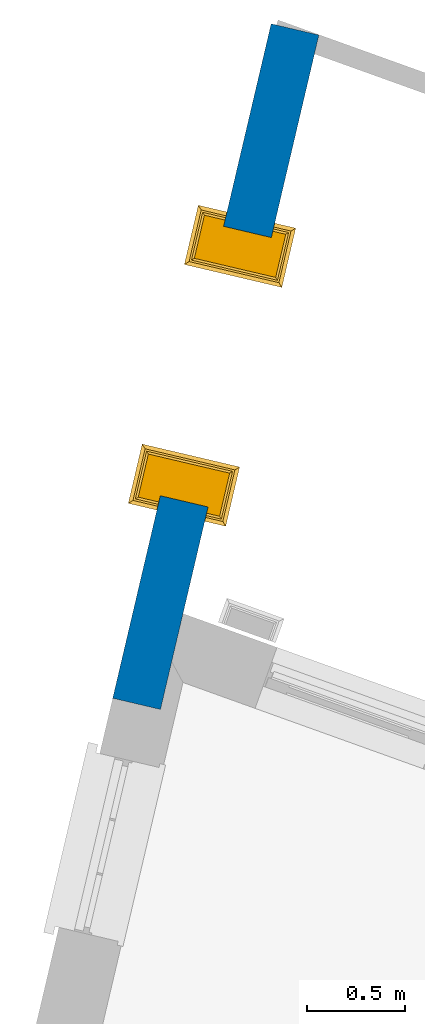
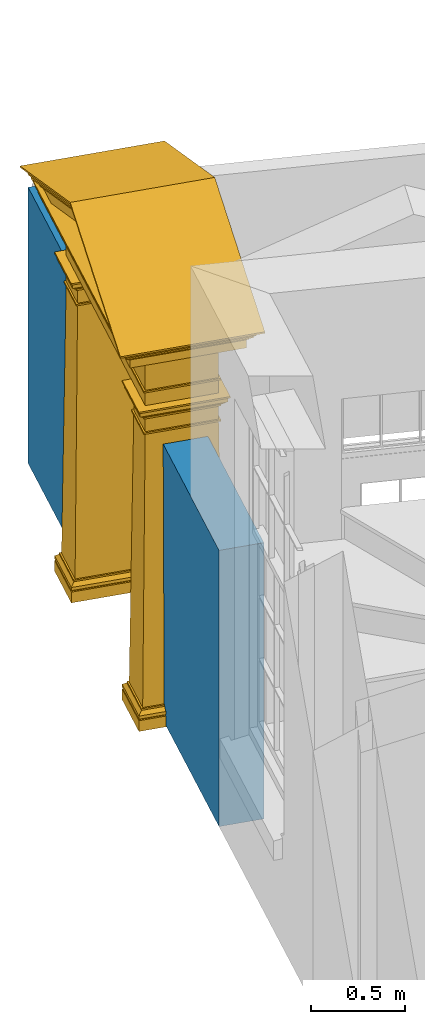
# One storey, part 5 of 6: 1 door, 1 wall, 1 opening.
"""IFC4 building model written with IfcOpenShell, lengths in metres."""

from ifc_helpers import new_model, si_unit, frame, origin, origin_with_axes, place, context, subcontext, project, spatial, polyline, outline, extrude, faceted_brep, source, transform, mapped, material, layer, layer_set, layer_usage, type_object, type_shapes, element, fill, save


model = new_model("IFC4")

# Units and contexts
model_context = context("Model", 3, world=origin_with_axes())
body_context = subcontext(model_context, "Body", "Model", "MODEL_VIEW")
ifc_project = project(units=[si_unit("PLANEANGLEUNIT", "RADIAN"), si_unit("MASSUNIT", "GRAM", prefix="KILO"), si_unit("FORCEUNIT", "NEWTON", prefix="KILO"), si_unit("LENGTHUNIT", "METRE"), si_unit("AREAUNIT", "SQUARE_METRE"), si_unit("VOLUMEUNIT", "CUBIC_METRE")], contexts=[model_context, model_context])

# Sites, building, storey
site_1_placement = place(None, origin_with_axes())
site_1 = spatial("IfcSite", under=ifc_project, at=site_1_placement, Name="Tamar")
site_2_placement = place(site_1_placement, origin_with_axes())
site_2 = spatial("IfcSite", under=site_1, at=site_2_placement, Name="Site plot-22", CompositionType="ELEMENT")
building_placement = place(None, origin_with_axes())
building = spatial("IfcBuilding", under=site_2, at=building_placement, Name="Building plot-22", CompositionType="ELEMENT")
storey_placement = place(None, frame((0.0, 0.0, 24.5), z_axis=(0.0, 0.0, 1.0), x_axis=(1.0, 0.0, 0.0)))
storey = spatial("IfcBuildingStorey", under=building, at=storey_placement, Name="plot-22 0", CompositionType="ELEMENT", Elevation=24.5)

# Wall, opening, door
ifc_material = material(Name="Masonry")
ifc_layer = layer(ifc_material, 0.25, ventilated=False)
ifc_layer_set = layer_set([ifc_layer], Name="fence_0_0.25")
ifc_layer_usage = layer_usage(ifc_layer_set, "AXIS2", "POSITIVE", -0.25)
wall_type = type_object("IfcWallType", Name="fence_0_0.25", PredefinedType="SOLIDWALL", material=ifc_layer_set)
wall_placement = place(storey_placement, frame((251.765184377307, 279.180139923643, 0.0), z_axis=(0.0, 0.0, 1.0), x_axis=(-0.228654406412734, -0.973507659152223, 0.0)))
wall = element("IfcWall", 1, at=wall_placement, inside=storey, type_object=wall_type, material=ifc_layer_usage, Name="fence", context=body_context, shape_type="SweptSolid", body=[
    extrude(outline(polyline([(-0.249999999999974, 1.30165145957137e-15), (-0.249999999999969, -0.25), (3.28010358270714, -0.250000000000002), (3.28010358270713, 0.0), (-0.249999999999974, 1.30165145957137e-15)])), origin_with_axes(), (0.0, 0.0, 1.0), 1.8),
])
opening_placement = place(wall_placement, frame((0.810051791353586, 0.0, -0.0100000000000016)))
opening = element("IfcOpeningElement", 2, at=opening_placement, cuts=wall, Name="My Opening", ObjectType="Opening", context=body_context, shape_type="SweptSolid", body=[
    extrude(outline(polyline([(0.0, -0.270000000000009), (1.40999999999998, -0.270000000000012), (1.40999999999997, 1.02000000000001), (-3.10862446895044e-15, 1.02000000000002), (0.0, -0.270000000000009)])), origin_with_axes(), (0.0, 0.0, 1.0), 1.81),
])
door_type = type_object("IfcDoorType", Name="gate", OperationType="SINGLE_SWING_LEFT", PredefinedType="NOTDEFINED")
shared_shape = source(origin(), body_context, "Body", "Brep", [
    faceted_brep([(1.565, 0.25, 2.5), (1.565, -0.21, 2.5), (1.565, -0.21, 2.49), (1.565, 0.25, 2.49), (1.445, -0.09, 2.01), (1.215, -0.09, 2.01), (1.215, -0.09, 2.0), (1.445, -0.09, 2.0), (-0.035, -0.09, 2.180001), (-0.025, -0.08, 2.180001), (-0.025, 0.25, 2.180001), (-0.035, 0.25, 2.180001), (-0.025, -0.08, 2.170001), (-0.035, -0.09, 2.170001), (-0.035, 0.25, 2.170001), (-0.025, 0.25, 2.170001), (1.445, -0.09, 2.180001), (1.435, -0.08, 2.180001), (-0.025, -0.08, 2.37), (-0.025, 0.25, 2.37), (1.435, -0.08, 2.170001), (1.445, -0.09, 2.170001), (-0.025, -0.08, 2.08), (-0.025, 0.25, 2.08), (1.445, 0.25, 2.180001), (1.435, 0.25, 2.180001), (1.435, -0.08, 2.37), (-0.035, -0.09, 2.37), (-0.035, 0.25, 2.37), (1.435, 0.25, 2.37), (1.445, 0.25, 2.170001), (1.435, 0.25, 2.170001), (0.235, -0.08, 2.08), (0.235, 0.25, 2.08), (1.175, 0.25, 2.08), (1.175, -0.08, 2.08), (-0.075, 0.25, 2.08), (-0.075, -0.13, 2.08), (1.445, -0.09, 2.37), (-0.035, -0.09, 2.380001), (-0.035, 0.25, 2.380001), (1.445, 0.25, 2.37), (1.435, -0.08, 2.08), (1.435, 0.25, 2.08), (0.235, 0.38, 2.07), (0.235, 0.38, 2.08), (0.235, 0.33, 2.08), (0.235, -0.13, 2.08), (-0.075, 0.25, 2.07), (-0.075, -0.13, 2.07), (1.445, -0.09, 2.380001), (-0.045, -0.1, 2.39), (-0.045, 0.25, 2.39), (1.455, 0.25, 2.39), (1.455, -0.1, 2.39), (1.445, 0.25, 2.380001), (1.485, -0.13, 2.08), (1.485, 0.25, 2.08), (0.235, -0.13, 2.07), (1.175, -0.13, 2.08), (-0.065, 0.25, 2.07), (-0.065, -0.12, 2.07), (-0.055, -0.11, 2.39), (-0.055, 0.25, 2.39), (1.465, 0.25, 2.39), (1.465, -0.11, 2.39), (1.485, 0.25, 2.07), (1.485, -0.13, 2.07), (0.225, 0.25, 2.07), (0.235, 0.25, 2.07), (0.225, -0.12, 2.07), (-0.065, 0.25, 2.04), (-0.065, -0.12, 2.04), (1.475, 0.25, 2.07), (1.475, -0.12, 2.07), (1.175, 0.25, 2.07), (1.185, 0.25, 2.07), (1.185, -0.12, 2.07), (1.175, -0.13, 2.07), (1.175, 0.33, 2.08), (1.175, 0.38, 2.07), (-0.055, -0.11, 2.4), (-0.055, 0.25, 2.4), (1.465, 0.25, 2.4), (1.465, -0.11, 2.4), (0.225, 0.25, 2.04), (0.225, -0.12, 2.04), (-0.055, 0.25, 2.04), (-0.055, -0.11, 2.04), (1.475, 0.25, 2.04), (1.475, -0.12, 2.04), (1.185, 0.25, 2.04), (1.195, 0.25, 2.04), (1.195, -0.11, 2.04), (1.185, -0.12, 2.04), (-0.065, -0.12, 2.4), (-0.065, 0.25, 2.4), (-0.085, -0.14, 2.42), (-0.085, 0.25, 2.42), (-0.085, -0.14, 2.43), (-0.085, 0.25, 2.43), (1.495, 0.25, 2.43), (1.495, -0.14, 2.43), (1.495, -0.14, 2.42), (1.495, 0.25, 2.42), (1.475, 0.25, 2.4), (1.475, -0.12, 2.4), (0.215, 0.25, 2.04), (0.215, -0.11, 2.04), (-0.055, 0.25, 2.03), (-0.055, -0.11, 2.03), (0.215, 0.25, 2.03), (0.215, -0.11, 2.03), (1.465, 0.25, 2.04), (1.465, -0.11, 2.04), (1.195, 0.25, 2.03), (1.195, -0.11, 2.03), (1.465, 0.25, 2.03), (1.465, -0.11, 2.03), (-0.145, -0.2, 2.43), (-0.145, 0.25, 2.43), (1.555, 0.25, 2.43), (1.555, -0.2, 2.43), (-0.035, 0.25, 2.01), (-0.035, -0.09, 2.01), (0.195, 0.25, 2.01), (0.195, -0.09, 2.01), (1.215, 0.25, 2.01), (1.445, 0.25, 2.01), (-0.145, -0.2, 2.49), (-0.145, 0.25, 2.49), (1.555, 0.25, 2.49), (1.555, -0.2, 2.49), (-0.035, 0.25, 2.0), (-0.035, -0.09, 2.0), (0.195, 0.25, 2.0), (0.195, -0.09, 2.0), (1.215, 0.25, 2.0), (1.445, 0.25, 2.0), (-0.155, -0.21, 2.49), (-0.155, 0.25, 2.49), (-0.155, -0.21, 2.5), (-0.155, 0.25, 2.5), (-0.165, -0.22, 2.51), (-0.165, 0.25, 2.51), (1.575, 0.25, 2.51), (1.575, -0.22, 2.51), (-0.025, -0.08, 2.0), (-0.025, 0.25, 2.0), (0.185, -0.08, 2.0), (0.185, 0.25, 2.0), (-0.025, 0.25, 1.91), (-0.025, -0.08, 1.91), (0.185, 0.25, 1.91), (0.185, -0.08, 1.91), (1.225, 0.25, 2.0), (1.225, -0.08, 2.0), (1.435, -0.08, 2.0), (1.435, 0.25, 2.0), (1.435, 0.25, 1.91), (1.435, -0.08, 1.91), (1.225, 0.25, 1.91), (1.225, -0.08, 1.91), (-0.175, -0.23, 2.51), (-0.175, 0.25, 2.51), (1.585, 0.25, 2.51), (1.585, -0.23, 2.51), (-0.035, 0.25, 1.91), (-0.035, -0.09, 1.91), (0.195, -0.09, 1.91), (0.195, 0.25, 1.91), (1.445, -0.09, 1.91), (1.445, 0.25, 1.91), (1.215, -0.09, 1.91), (1.215, 0.25, 1.91), (-0.175, -0.23, 2.52), (-0.175, 0.25, 2.52), (1.585, 0.25, 2.52), (1.585, -0.23, 2.52), (-0.035, 0.25, 1.9), (-0.035, -0.09, 1.9), (0.195, 0.25, 1.9), (0.195, -0.09, 1.9), (-0.025, -0.08, 1.9), (-0.025, 0.25, 1.9), (0.185, -0.08, 1.9), (0.185, 0.25, 1.9), (-0.045, 0.25, 0.13), (-0.045, -0.1, 0.13), (0.205, 0.25, 0.13), (0.205, -0.1, 0.13), (1.445, -0.09, 1.9), (1.445, 0.25, 1.9), (1.435, -0.08, 1.9), (1.435, 0.25, 1.9), (1.455, -0.1, 0.13), (1.455, 0.25, 0.13), (1.225, 0.25, 1.9), (1.205, 0.25, 0.13), (1.205, -0.1, 0.13), (1.225, -0.08, 1.9), (1.215, -0.09, 1.9), (1.215, 0.25, 1.9), (-0.185, -0.24, 2.526), (-0.185, 0.25, 2.526), (-0.150858, -0.23, 2.52), (1.560858, -0.23, 2.52), (-0.195, -0.25, 2.551001), (-0.195, 0.25, 2.551001), (-0.223, 0.25, 2.561001), (-0.223, -0.278, 2.561001), (1.633, -0.278, 2.561001), (1.605, -0.25, 2.551001), (1.605, 0.25, 2.551001), (1.633, 0.25, 2.561001), (1.595, 0.25, 2.526), (1.595, -0.24, 2.526), (-0.055, 0.25, 0.13), (-0.055, -0.11, 0.13), (0.215, 0.25, 0.13), (0.215, -0.11, 0.13), (1.465, -0.11, 0.13), (1.465, 0.25, 0.13), (1.195, 0.25, 0.13), (1.195, -0.11, 0.13), (0.705, -0.23, 2.884508), (0.705, -0.24, 2.89465), (0.705, -0.23, 2.874508), (1.486538, -0.21, 2.522499), (-0.076538, -0.21, 2.522499), (0.705, -0.25, 2.923792), (0.705, -0.278, 2.945389), (-0.223, -0.278, 2.571001), (-0.223, 0.25, 2.571001), (1.633, 0.25, 2.571001), (1.633, -0.278, 2.571001), (-0.055, 0.25, 0.12), (-0.055, -0.11, 0.12), (0.215, 0.25, 0.12), (0.215, -0.11, 0.12), (-0.075, 0.25, 0.1), (-0.075, -0.13, 0.1), (0.235, 0.25, 0.1), (0.235, -0.13, 0.1), (1.465, 0.25, 0.12), (1.465, -0.11, 0.12), (1.485, 0.25, 0.1), (1.485, -0.13, 0.1), (1.195, 0.25, 0.12), (1.175, 0.25, 0.1), (1.175, -0.13, 0.1), (1.195, -0.11, 0.12), (-0.13784, -0.22, 2.52125), (0.705, -0.22, 2.870365), (1.51068, -0.21, 2.522499), (1.54784, -0.22, 2.52125), (1.316733, -0.2, 2.523749), (0.093267, -0.2, 2.523749), (-0.10068, -0.21, 2.522499), (0.705, -0.278, 2.955389), (0.705, 0.25, 2.955389), (-0.075, 0.25, 0.08), (-0.075, -0.13, 0.08), (0.235, 0.25, 0.08), (0.235, -0.13, 0.08), (1.485, -0.13, 0.08), (1.485, 0.25, 0.08), (1.175, 0.25, 0.08), (1.175, -0.13, 0.08), (0.705, -0.21, 2.856223), (0.705, -0.21, 2.846222), (1.272495, -0.14, 2.53125), (0.137505, -0.14, 2.53125), (-0.06352, -0.2, 2.523749), (1.47352, -0.2, 2.523749), (-0.065, 0.25, 0.07), (-0.065, -0.12, 0.07), (0.225, 0.25, 0.07), (0.225, -0.12, 0.07), (1.475, 0.25, 0.07), (1.475, -0.12, 0.07), (1.185, 0.25, 0.07), (1.185, -0.12, 0.07), (0.705, -0.2, 2.842082), (1.298626, -0.14, 2.53125), (1.214197, -0.12, 2.533749), (0.195803, -0.12, 2.533749), (0.111374, -0.14, 2.53125), (0.705, -0.2, 2.777137), (-0.075, 0.25, 0.07), (-0.075, -0.13, 0.07), (0.235, -0.13, 0.07), (0.235, 0.25, 0.07), (0.235, -0.13, 0.0), (-0.075, -0.13, 0.0), (-0.075, 0.25, 0.0), (0.235, 0.25, 0.0), (1.485, -0.13, 0.07), (1.485, 0.25, 0.07), (1.485, -0.13, 0.0), (1.175, -0.13, 0.0), (1.175, 0.25, 0.0), (1.485, 0.25, 0.0), (1.175, -0.13, 0.07), (1.175, 0.25, 0.07), (0.705, -0.14, 2.766314), (0.705, -0.14, 2.777137), (0.705, -0.12, 2.744666), (1.185048, -0.11, 2.535), (0.224952, -0.11, 2.535), (0.705, -0.11, 2.744666), (1.211179, -0.11, 2.535), (1.12675, -0.09, 2.537501), (0.28325, -0.09, 2.537501), (0.198821, -0.11, 2.535), (0.705, -0.11, 2.733843), (1.152881, -0.09, 2.537501), (1.18203, -0.1, 2.536251), (0.286268, -0.08, 2.538751), (1.123732, -0.08, 2.538751), (0.22797, -0.1, 2.536251), (0.257119, -0.09, 2.537501), (0.705, -0.1, 2.733843), (0.705, -0.09, 2.712194), (0.705, -0.09, 2.723017), (0.705, -0.08, 2.712194), (-0.155, 0.46, 2.5), (-0.155, 0.46, 2.49), (-0.035, 0.34, 2.01), (0.195, 0.34, 2.01), (0.195, 0.34, 2.0), (-0.035, 0.34, 2.0), (1.445, 0.34, 2.180001), (1.435, 0.33, 2.180001), (1.435, 0.33, 2.170001), (1.445, 0.34, 2.170001), (-0.035, 0.34, 2.180001), (-0.025, 0.33, 2.180001), (1.435, 0.33, 2.37), (-0.025, 0.33, 2.170001), (-0.035, 0.34, 2.170001), (1.435, 0.33, 2.08), (-0.025, 0.33, 2.37), (1.445, 0.34, 2.37), (1.485, 0.38, 2.08), (-0.035, 0.34, 2.37), (1.445, 0.34, 2.380001), (-0.025, 0.33, 2.08), (1.175, 0.38, 2.08), (1.485, 0.38, 2.07), (-0.035, 0.34, 2.380001), (1.455, 0.35, 2.39), (-0.045, 0.35, 2.39), (-0.075, 0.38, 2.08), (1.475, 0.37, 2.07), (1.465, 0.36, 2.39), (-0.055, 0.36, 2.39), (-0.075, 0.38, 2.07), (1.185, 0.37, 2.07), (1.475, 0.37, 2.04), (-0.065, 0.37, 2.07), (0.225, 0.37, 2.07), (1.465, 0.36, 2.4), (-0.055, 0.36, 2.4), (1.185, 0.37, 2.04), (1.465, 0.36, 2.04), (-0.065, 0.37, 2.04), (0.215, 0.36, 2.04), (0.225, 0.37, 2.04), (1.475, 0.37, 2.4), (1.495, 0.39, 2.42), (1.495, 0.39, 2.43), (-0.085, 0.39, 2.43), (-0.085, 0.39, 2.42), (-0.065, 0.37, 2.4), (1.195, 0.36, 2.04), (1.465, 0.36, 2.03), (1.195, 0.36, 2.03), (-0.055, 0.36, 2.04), (0.215, 0.36, 2.03), (-0.055, 0.36, 2.03), (1.555, 0.45, 2.43), (-0.145, 0.45, 2.43), (1.445, 0.34, 2.01), (1.215, 0.34, 2.01), (1.555, 0.45, 2.49), (-0.145, 0.45, 2.49), (1.445, 0.34, 2.0), (1.215, 0.34, 2.0), (1.565, 0.46, 2.49), (1.565, 0.46, 2.5), (1.575, 0.47, 2.51), (-0.165, 0.47, 2.51), (1.435, 0.33, 2.0), (1.225, 0.33, 2.0), (1.435, 0.33, 1.91), (1.225, 0.33, 1.91), (0.185, 0.33, 2.0), (-0.025, 0.33, 2.0), (-0.025, 0.33, 1.91), (0.185, 0.33, 1.91), (1.585, 0.48, 2.51), (-0.175, 0.48, 2.51), (1.445, 0.34, 1.91), (1.215, 0.34, 1.91), (-0.035, 0.34, 1.91), (0.195, 0.34, 1.91), (1.585, 0.48, 2.52), (-0.175, 0.48, 2.52), (1.445, 0.34, 1.9), (1.215, 0.34, 1.9), (1.435, 0.33, 1.9), (1.225, 0.33, 1.9), (1.455, 0.35, 0.13), (1.205, 0.35, 0.13), (-0.035, 0.34, 1.9), (-0.025, 0.33, 1.9), (-0.045, 0.35, 0.13), (0.205, 0.35, 0.13), (0.185, 0.33, 1.9), (0.195, 0.34, 1.9), (1.595, 0.49, 2.526), (1.560858, 0.48, 2.52), (-0.150858, 0.48, 2.52), (1.605, 0.5, 2.551001), (1.633, 0.528, 2.561001), (-0.223, 0.528, 2.561001), (-0.195, 0.5, 2.551001), (-0.185, 0.49, 2.526), (1.465, 0.36, 0.13), (1.195, 0.36, 0.13), (-0.055, 0.36, 0.13), (0.215, 0.36, 0.13), (0.705, 0.48, 2.884508), (0.705, 0.49, 2.89465), (0.705, 0.48, 2.874508), (-0.076538, 0.46, 2.522499), (1.486538, 0.46, 2.522499), (0.705, 0.5, 2.923792), (0.705, 0.528, 2.945389), (1.633, 0.528, 2.571001), (-0.223, 0.528, 2.571001), (1.465, 0.36, 0.12), (1.195, 0.36, 0.12), (1.485, 0.38, 0.1), (1.175, 0.38, 0.1), (-0.055, 0.36, 0.12), (-0.075, 0.38, 0.1), (0.235, 0.38, 0.1), (0.215, 0.36, 0.12), (1.54784, 0.47, 2.52125), (0.705, 0.47, 2.870365), (-0.10068, 0.46, 2.522499), (-0.13784, 0.47, 2.52125), (0.093267, 0.45, 2.523749), (1.316733, 0.45, 2.523749), (1.51068, 0.46, 2.522499), (0.705, 0.528, 2.955389), (1.485, 0.38, 0.08), (1.175, 0.38, 0.08), (-0.075, 0.38, 0.08), (0.235, 0.38, 0.08), (0.705, 0.46, 2.856223), (0.705, 0.46, 2.846222), (0.137505, 0.39, 2.53125), (1.272495, 0.39, 2.53125), (1.47352, 0.45, 2.523749), (-0.06352, 0.45, 2.523749), (1.475, 0.37, 0.07), (1.185, 0.37, 0.07), (-0.065, 0.37, 0.07), (0.225, 0.37, 0.07), (0.705, 0.45, 2.842082), (0.111374, 0.39, 2.53125), (0.195803, 0.37, 2.533749), (1.214197, 0.37, 2.533749), (1.298626, 0.39, 2.53125), (0.705, 0.45, 2.777137), (1.485, 0.38, 0.07), (1.175, 0.38, 0.07), (1.175, 0.38, 0.0), (1.485, 0.38, 0.0), (-0.075, 0.38, 0.07), (-0.075, 0.38, 0.0), (0.235, 0.38, 0.0), (0.235, 0.38, 0.07), (0.705, 0.39, 2.766314), (0.705, 0.39, 2.777137), (0.705, 0.37, 2.744666), (0.224952, 0.36, 2.535), (1.185048, 0.36, 2.535), (0.705, 0.36, 2.744666), (0.198821, 0.36, 2.535), (0.28325, 0.34, 2.537501), (1.12675, 0.34, 2.537501), (1.211179, 0.36, 2.535), (0.705, 0.36, 2.733843), (0.257119, 0.34, 2.537501), (0.22797, 0.35, 2.536251), (1.123732, 0.33, 2.538751), (0.286268, 0.33, 2.538751), (1.18203, 0.35, 2.536251), (1.152881, 0.34, 2.537501), (0.705, 0.35, 2.733843), (0.705, 0.34, 2.723017), (0.705, 0.34, 2.712194), (0.705, 0.33, 2.712194)], [[[0, 1, 2, 3]], [[4, 5, 6, 7]], [[8, 9, 10, 11]], [[12, 13, 14, 15]], [[13, 8, 11, 14]], [[9, 8, 16, 17]], [[9, 18, 19, 10]], [[13, 12, 20, 21]], [[22, 12, 15, 23]], [[8, 13, 21, 16]], [[17, 16, 24, 25]], [[18, 9, 17, 26]], [[27, 28, 19, 18]], [[26, 17, 25, 29]], [[16, 21, 30, 24]], [[21, 20, 31, 30]], [[32, 33, 34, 35]], [[12, 32, 35, 20]], [[12, 22, 32]], [[22, 23, 36, 37]], [[27, 18, 26, 38]], [[39, 40, 28, 27]], [[41, 38, 26, 29]], [[20, 42, 43, 31]], [[44, 45, 46]], [[42, 20, 35]], [[37, 47, 32, 22]], [[36, 48, 49, 37]], [[39, 27, 38, 50]], [[51, 52, 40, 39]], [[53, 54, 50, 55]], [[55, 50, 38, 41]], [[43, 42, 56, 57]], [[32, 47, 58]], [[59, 56, 42, 35]], [[58, 47, 37, 49]], [[48, 60, 61, 49]], [[51, 39, 50, 54]], [[62, 63, 52, 51]], [[64, 65, 54, 53]], [[66, 57, 56, 67]], [[68, 69, 58, 70]], [[60, 71, 72, 61]], [[73, 66, 67, 74]], [[75, 76, 77, 78]], [[34, 79, 80, 75]], [[59, 78, 67, 56]], [[61, 70, 58, 49]], [[62, 51, 54, 65]], [[81, 82, 63, 62]], [[83, 84, 65, 64]], [[85, 68, 70, 86]], [[71, 87, 88, 72]], [[86, 70, 61, 72]], [[77, 74, 67, 78]], [[89, 73, 74, 90]], [[91, 92, 93, 94]], [[76, 91, 94, 77]], [[81, 62, 65, 84]], [[95, 96, 82, 81]], [[97, 98, 96, 95]], [[99, 100, 98, 97]], [[101, 102, 103, 104]], [[105, 106, 84, 83]], [[104, 103, 106, 105]], [[107, 85, 86, 108]], [[87, 109, 110, 88]], [[88, 108, 86, 72]], [[111, 107, 108, 112]], [[77, 94, 90, 74]], [[113, 89, 90, 114]], [[92, 115, 116, 93]], [[93, 114, 90, 94]], [[117, 113, 114, 118]], [[95, 81, 84, 106]], [[97, 95, 106, 103]], [[119, 120, 100, 99]], [[99, 97, 103, 102]], [[121, 122, 102, 101]], [[109, 123, 124, 110]], [[112, 108, 88, 110]], [[125, 111, 112, 126]], [[115, 127, 5, 116]], [[93, 116, 118, 114]], [[128, 117, 118, 4]], [[129, 130, 120, 119]], [[119, 99, 102, 122]], [[131, 132, 122, 121]], [[123, 133, 134, 124]], [[110, 124, 126, 112]], [[135, 125, 126, 136]], [[127, 137, 6, 5]], [[4, 118, 116, 5]], [[138, 128, 4, 7]], [[139, 140, 130, 129]], [[129, 119, 122, 132]], [[141, 142, 140, 139]], [[143, 144, 142, 141]], [[145, 146, 1, 0]], [[3, 2, 132, 131]], [[147, 134, 133, 148]], [[126, 124, 134, 136]], [[135, 136, 149, 150]], [[148, 151, 152, 147]], [[153, 150, 149, 154]], [[6, 137, 155, 156]], [[7, 157, 158, 138]], [[159, 158, 157, 160]], [[155, 161, 162, 156]], [[139, 129, 132, 2]], [[141, 139, 2, 1]], [[163, 164, 144, 143]], [[143, 141, 1, 146]], [[165, 166, 146, 145]], [[147, 149, 136, 134]], [[167, 168, 152, 151]], [[147, 152, 154, 149]], [[154, 169, 170, 153]], [[156, 157, 7, 6]], [[160, 157, 156, 162]], [[171, 172, 159, 160]], [[173, 162, 161, 174]], [[175, 176, 164, 163]], [[163, 143, 146, 166]], [[177, 178, 166, 165]], [[179, 180, 168, 167]], [[154, 152, 168, 169]], [[181, 170, 169, 182]], [[183, 180, 179, 184]], [[181, 182, 185, 186]], [[184, 187, 188, 183]], [[189, 186, 185, 190]], [[160, 162, 173, 171]], [[191, 192, 172, 171]], [[191, 193, 194, 192]], [[193, 195, 196, 194]], [[197, 198, 199, 200]], [[201, 202, 197, 200]], [[174, 202, 201, 173]], [[203, 204, 176, 175]], [[175, 163, 205]], [[163, 166, 206, 205]], [[207, 208, 204, 203]], [[209, 208, 207, 210]], [[211, 212, 213, 214]], [[215, 216, 178, 177]], [[213, 212, 216, 215]], [[178, 206, 166]], [[180, 182, 169, 168]], [[183, 185, 182, 180]], [[187, 217, 218, 188]], [[183, 188, 190, 185]], [[219, 189, 190, 220]], [[201, 191, 171, 173]], [[200, 193, 191, 201]], [[195, 193, 200, 199]], [[195, 221, 222, 196]], [[198, 223, 224, 199]], [[175, 225, 226, 203]], [[225, 175, 205, 227]], [[205, 206, 228, 229]], [[203, 226, 230, 207]], [[207, 230, 231, 210]], [[232, 233, 209, 210]], [[234, 235, 211, 214]], [[231, 230, 212, 211]], [[216, 226, 225, 178]], [[212, 230, 226, 216]], [[227, 206, 178, 225]], [[217, 236, 237, 218]], [[220, 190, 188, 218]], [[238, 219, 220, 239]], [[236, 240, 241, 237]], [[242, 238, 239, 243]], [[221, 195, 199, 224]], [[244, 222, 221, 245]], [[246, 244, 245, 247]], [[248, 249, 250, 251]], [[223, 248, 251, 224]], [[227, 205, 252, 253]], [[254, 228, 206, 255]], [[256, 257, 229, 228]], [[252, 205, 229, 258]], [[231, 259, 232, 210]], [[260, 233, 232, 259]], [[234, 260, 259, 235]], [[259, 231, 211, 235]], [[253, 255, 206, 227]], [[239, 220, 218, 237]], [[261, 262, 241, 240]], [[243, 239, 237, 241]], [[263, 242, 243, 264]], [[224, 251, 245, 221]], [[251, 250, 247, 245]], [[265, 266, 246, 247]], [[249, 267, 268, 250]], [[253, 252, 258, 269]], [[270, 228, 254, 269]], [[269, 254, 255, 253]], [[256, 271, 272, 257]], [[273, 229, 257]], [[274, 256, 228]], [[269, 258, 229, 270]], [[261, 275, 276, 262]], [[264, 243, 241, 262]], [[277, 263, 264, 278]], [[250, 268, 265, 247]], [[279, 266, 265, 280]], [[267, 281, 282, 268]], [[283, 274, 228, 270]], [[284, 271, 256]], [[271, 285, 286, 272]], [[287, 257, 272]], [[270, 229, 273, 283]], [[283, 273, 257, 288]], [[288, 256, 274, 283]], [[289, 290, 276, 275]], [[262, 276, 278, 264]], [[278, 291, 292, 277]], [[293, 294, 295, 296]], [[280, 265, 268, 282]], [[297, 298, 279, 280]], [[299, 300, 301, 302]], [[303, 282, 281, 304]], [[305, 271, 284, 306]], [[306, 284, 256, 288]], [[307, 285, 271, 305]], [[285, 308, 309, 286]], [[305, 272, 286, 307]], [[288, 257, 287, 306]], [[306, 287, 272, 305]], [[289, 295, 294, 290]], [[278, 276, 290, 291]], [[296, 292, 291, 293]], [[290, 294, 293, 291]], [[280, 282, 303, 297]], [[302, 298, 297, 299]], [[299, 297, 303, 300]], [[304, 301, 300, 303]], [[310, 311, 285, 307]], [[311, 308, 285]], [[308, 312, 313, 309]], [[314, 286, 309]], [[307, 286, 314, 310]], [[315, 308, 311, 310]], [[316, 312, 308, 317]], [[318, 313, 312, 319]], [[320, 309, 313, 321]], [[310, 314, 309, 315]], [[322, 317, 308, 315]], [[323, 312, 316, 324]], [[324, 316, 317, 322]], [[323, 313, 318, 325]], [[325, 319, 312, 323]], [[325, 318, 319]], [[315, 309, 320, 322]], [[324, 321, 313, 323]], [[322, 320, 321, 324]], [[142, 326, 327, 140]], [[328, 329, 330, 331]], [[332, 333, 25, 24]], [[334, 335, 30, 31]], [[335, 332, 24, 30]], [[333, 332, 336, 337]], [[333, 338, 29, 25]], [[335, 334, 339, 340]], [[341, 334, 31, 43]], [[332, 335, 340, 336]], [[337, 336, 11, 10]], [[338, 333, 337, 342]], [[343, 41, 29, 338]], [[342, 337, 10, 19]], [[336, 340, 14, 11]], [[340, 339, 15, 14]], [[79, 34, 33, 46]], [[334, 79, 46, 339]], [[334, 341, 79]], [[341, 43, 57, 344]], [[343, 338, 342, 345]], [[346, 55, 41, 343]], [[28, 345, 342, 19]], [[339, 347, 23, 15]], [[35, 34, 75, 78]], [[33, 32, 58, 69]], [[347, 339, 46]], [[344, 348, 79, 341]], [[57, 66, 349, 344]], [[346, 343, 345, 350]], [[351, 53, 55, 346]], [[52, 352, 350, 40]], [[40, 350, 345, 28]], [[23, 347, 353, 36]], [[79, 348, 80]], [[45, 353, 347, 46]], [[80, 348, 344, 349]], [[66, 73, 354, 349]], [[351, 346, 350, 352]], [[355, 64, 53, 351]], [[63, 356, 352, 52]], [[48, 36, 353, 357]], [[76, 75, 80, 358]], [[73, 89, 359, 354]], [[60, 48, 357, 360]], [[69, 68, 361, 44]], [[46, 33, 69, 44]], [[45, 44, 357, 353]], [[354, 358, 80, 349]], [[355, 351, 352, 356]], [[362, 83, 64, 355]], [[82, 363, 356, 63]], [[91, 76, 358, 364]], [[89, 113, 365, 359]], [[364, 358, 354, 359]], [[361, 360, 357, 44]], [[71, 60, 360, 366]], [[85, 107, 367, 368]], [[68, 85, 368, 361]], [[362, 355, 356, 363]], [[369, 105, 83, 362]], [[370, 104, 105, 369]], [[371, 101, 104, 370]], [[100, 372, 373, 98]], [[96, 374, 363, 82]], [[98, 373, 374, 96]], [[92, 91, 364, 375]], [[113, 117, 376, 365]], [[365, 375, 364, 359]], [[115, 92, 375, 377]], [[361, 368, 366, 360]], [[87, 71, 366, 378]], [[107, 111, 379, 367]], [[367, 378, 366, 368]], [[109, 87, 378, 380]], [[369, 362, 363, 374]], [[370, 369, 374, 373]], [[381, 121, 101, 371]], [[371, 370, 373, 372]], [[120, 382, 372, 100]], [[117, 128, 383, 376]], [[377, 375, 365, 376]], [[127, 115, 377, 384]], [[111, 125, 329, 379]], [[367, 379, 380, 378]], [[123, 109, 380, 328]], [[385, 131, 121, 381]], [[381, 371, 372, 382]], [[130, 386, 382, 120]], [[128, 138, 387, 383]], [[376, 383, 384, 377]], [[137, 127, 384, 388]], [[125, 135, 330, 329]], [[328, 380, 379, 329]], [[133, 123, 328, 331]], [[389, 3, 131, 385]], [[385, 381, 382, 386]], [[390, 0, 3, 389]], [[391, 145, 0, 390]], [[144, 392, 326, 142]], [[140, 327, 386, 130]], [[393, 387, 138, 158]], [[384, 383, 387, 388]], [[137, 388, 394, 155]], [[158, 159, 395, 393]], [[161, 155, 394, 396]], [[330, 135, 150, 397]], [[331, 398, 148, 133]], [[151, 148, 398, 399]], [[150, 153, 400, 397]], [[389, 385, 386, 327]], [[390, 389, 327, 326]], [[401, 165, 145, 391]], [[391, 390, 326, 392]], [[164, 402, 392, 144]], [[393, 394, 388, 387]], [[172, 403, 395, 159]], [[393, 395, 396, 394]], [[396, 404, 174, 161]], [[397, 398, 331, 330]], [[399, 398, 397, 400]], [[405, 167, 151, 399]], [[406, 400, 153, 170]], [[407, 177, 165, 401]], [[401, 391, 392, 402]], [[176, 408, 402, 164]], [[192, 409, 403, 172]], [[396, 395, 403, 404]], [[202, 174, 404, 410]], [[411, 409, 192, 194]], [[202, 410, 412, 197]], [[194, 196, 413, 411]], [[198, 197, 412, 414]], [[399, 400, 406, 405]], [[415, 179, 167, 405]], [[415, 416, 184, 179]], [[416, 417, 187, 184]], [[186, 189, 418, 419]], [[420, 181, 186, 419]], [[170, 181, 420, 406]], [[421, 215, 177, 407]], [[407, 401, 422]], [[401, 402, 423, 422]], [[424, 213, 215, 421]], [[214, 213, 424, 425]], [[426, 427, 208, 209]], [[204, 428, 408, 176]], [[208, 427, 428, 204]], [[408, 423, 402]], [[409, 410, 404, 403]], [[411, 412, 410, 409]], [[196, 222, 429, 413]], [[411, 413, 414, 412]], [[223, 198, 414, 430]], [[420, 415, 405, 406]], [[419, 416, 415, 420]], [[417, 416, 419, 418]], [[417, 431, 217, 187]], [[189, 219, 432, 418]], [[407, 433, 434, 421]], [[433, 407, 422, 435]], [[422, 423, 436, 437]], [[421, 434, 438, 424]], [[424, 438, 439, 425]], [[440, 234, 214, 425]], [[233, 441, 426, 209]], [[439, 438, 427, 426]], [[428, 434, 433, 408]], [[427, 438, 434, 428]], [[435, 423, 408, 433]], [[222, 244, 442, 429]], [[430, 414, 413, 429]], [[248, 223, 430, 443]], [[244, 246, 444, 442]], [[249, 248, 443, 445]], [[431, 417, 418, 432]], [[236, 217, 431, 446]], [[240, 236, 446, 447]], [[238, 242, 448, 449]], [[219, 238, 449, 432]], [[435, 422, 450, 451]], [[452, 436, 423, 453]], [[454, 455, 437, 436]], [[450, 422, 437, 456]], [[439, 457, 440, 425]], [[260, 234, 440, 457]], [[233, 260, 457, 441]], [[457, 439, 426, 441]], [[451, 453, 423, 435]], [[443, 430, 429, 442]], [[266, 458, 444, 246]], [[445, 443, 442, 444]], [[267, 249, 445, 459]], [[432, 449, 446, 431]], [[449, 448, 447, 446]], [[460, 261, 240, 447]], [[242, 263, 461, 448]], [[451, 450, 456, 462]], [[463, 436, 452, 462]], [[462, 452, 453, 451]], [[454, 464, 465, 455]], [[466, 437, 455]], [[467, 454, 436]], [[462, 456, 437, 463]], [[266, 279, 468, 458]], [[459, 445, 444, 458]], [[281, 267, 459, 469]], [[448, 461, 460, 447]], [[275, 261, 460, 470]], [[263, 277, 471, 461]], [[472, 467, 436, 463]], [[473, 464, 454]], [[464, 474, 475, 465]], [[476, 455, 465]], [[463, 437, 466, 472]], [[472, 466, 455, 477]], [[477, 454, 467, 472]], [[298, 478, 468, 279]], [[458, 468, 469, 459]], [[469, 479, 304, 281]], [[480, 481, 302, 301]], [[470, 460, 461, 471]], [[482, 289, 275, 470]], [[483, 484, 296, 295]], [[485, 471, 277, 292]], [[486, 464, 473, 487]], [[487, 473, 454, 477]], [[488, 474, 464, 486]], [[474, 489, 490, 475]], [[486, 465, 475, 488]], [[477, 455, 476, 487]], [[487, 476, 465, 486]], [[298, 302, 481, 478]], [[469, 468, 478, 479]], [[301, 304, 479, 480]], [[478, 481, 480, 479]], [[470, 471, 485, 482]], [[295, 289, 482, 483]], [[483, 482, 485, 484]], [[292, 296, 484, 485]], [[491, 492, 474, 488]], [[492, 489, 474]], [[489, 493, 494, 490]], [[495, 475, 490]], [[488, 475, 495, 491]], [[496, 489, 492, 491]], [[497, 493, 489, 498]], [[499, 494, 493, 500]], [[501, 490, 494, 502]], [[491, 495, 490, 496]], [[503, 498, 489, 496]], [[497, 504, 505, 493]], [[504, 497, 498, 503]], [[505, 494, 499, 506]], [[506, 500, 493, 505]], [[506, 499, 500]], [[496, 490, 501, 503]], [[504, 502, 494, 505]], [[503, 501, 502, 504]], [[78, 59, 35]]]),
])
type_shapes(door_type, [shared_shape])
door_placement = place(storey_placement, frame((251.31711539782, 278.453284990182, -0.0100000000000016), z_axis=(0.0, 0.0, 1.0), x_axis=(-0.322402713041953, -1.37264579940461, 0.0)))
door = element("IfcDoor", 3, at=door_placement, inside=storey, type_object=door_type, Name="house entrance gate", OverallHeight=1.81, OverallWidth=1.41, context=body_context, shape_type="MappedRepresentation", body=[
    mapped(shared_shape, transform((0.0, 0.0, 0.0), scale=1.0)),
])
fill(opening, door)

save(model, "model.ifc")
